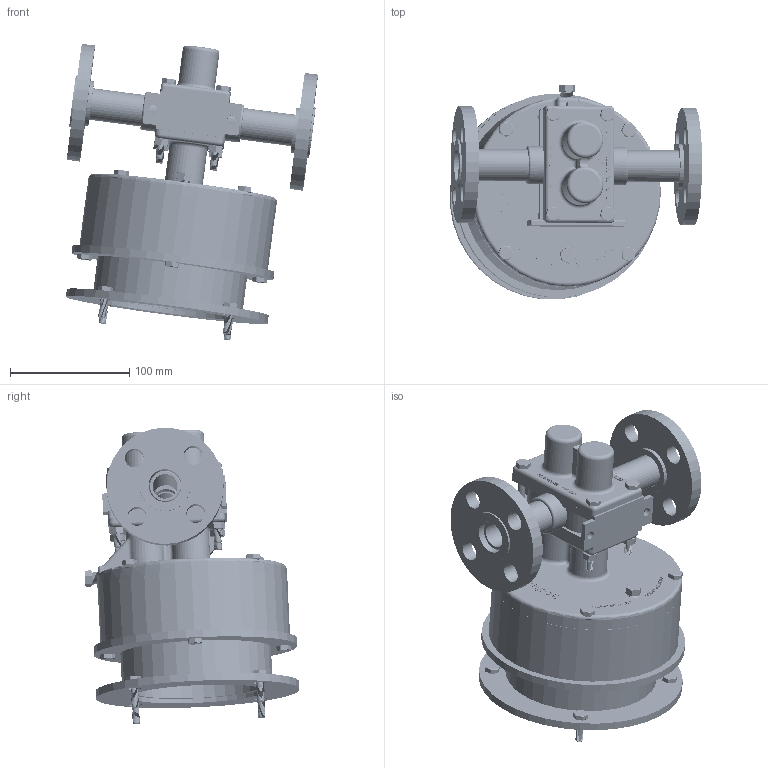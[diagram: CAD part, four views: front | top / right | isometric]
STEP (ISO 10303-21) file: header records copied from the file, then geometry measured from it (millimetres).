
FILE_DESCRIPTION (( 'STEP AP214' ), '1' );
FILE_NAME ('GMC6 FLGD 56-140 NO MOTOR.STEP', '2025-09-24T11:56:53', ( '' ), ( '' ), 'SwSTEP 2.0', 'SolidWorks 2024', '' );
FILE_SCHEMA (( 'AUTOMOTIVE_DESIGN' ));
Length unit declared in the file: inch
Products named in the file (1): GMC6 FLGD 56-140 NO MOTOR
Bounding box: 211.76 x 180.35 x 249 mm (x, y, z)
Volume: 1108658.2 mm3; surface area: 371515.7 mm2
Topology: 38 solids, 38 shells, 5582 faces, 12761 edges, 7379 vertices
Faces by surface type: cylinder 2117, cone 1947, plane 1048, bspline 366, torus 84, sphere 20
Entity records: 219265 total; most frequent: CARTESIAN_POINT 99540, ORIENTED_EDGE 25486, DIRECTION 23353, EDGE_CURVE 12743, AXIS2_PLACEMENT_3D 8464, VERTEX_POINT 7379, VECTOR 6425, LINE 6425
